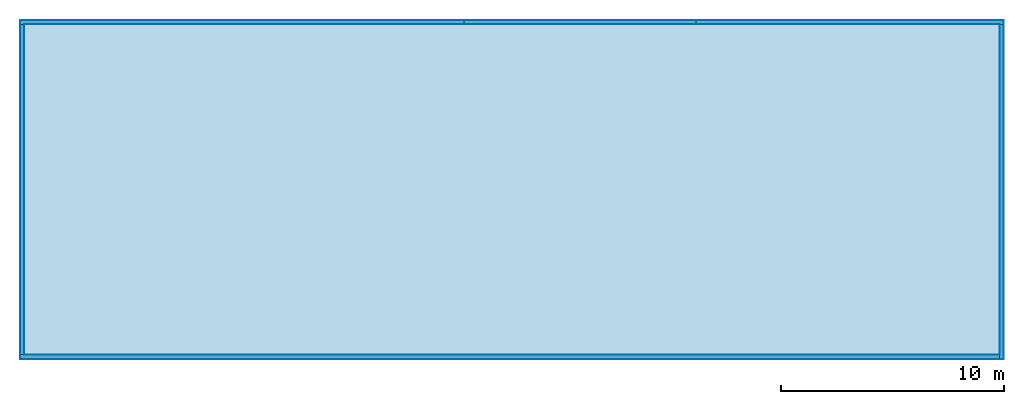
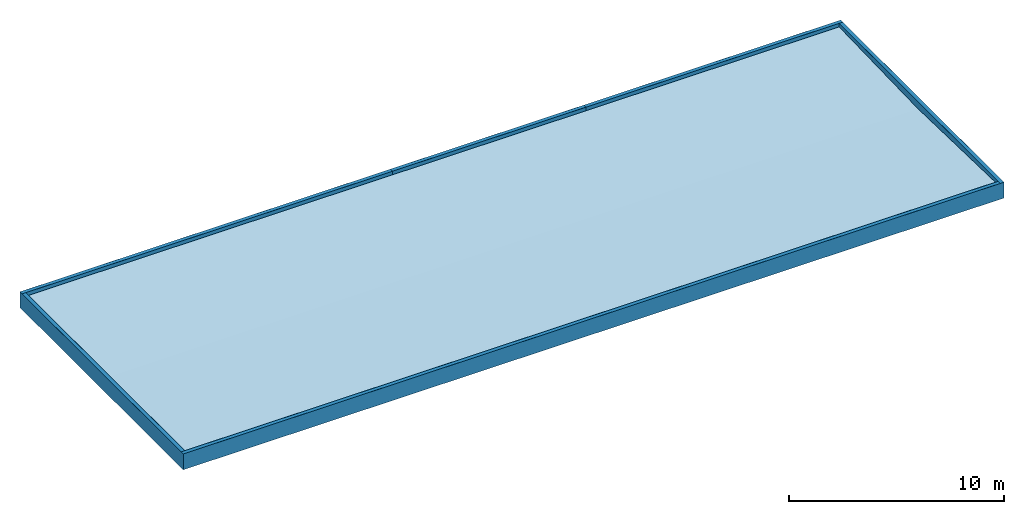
# One storey: 18 building element parts, 1 roof, 6 elements without a shape of their own.
"""IFC4 building model written with IfcOpenShell, lengths in millimetres."""

from ifc_helpers import new_model, entity, si_unit, converted_unit, direction, frame, origin, place, context, subcontext, project, spatial, indexed_curve, outline, extrude, polygons, material, constituent, constituent_set, type_object, element, aggregate, save


model = new_model("IFC4")

# Units and contexts
model_context = context("Model", 3, precision=0.01, world=origin(), true_north=direction((0.0, 1.0)))
body_context = subcontext(model_context, "Body", "Model", "MODEL_VIEW")
ifc_project = project(units=[si_unit("LENGTHUNIT", "METRE", prefix="MILLI"), si_unit("AREAUNIT", "SQUARE_METRE"), si_unit("VOLUMEUNIT", "CUBIC_METRE"), converted_unit("PLANEANGLEUNIT", "DEGREE", entity("IfcPlaneAngleMeasure", 0.017453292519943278), si_unit("PLANEANGLEUNIT", "RADIAN"), dimensions=[0, 0, 0, 0, 0, 0, 0])], contexts=[model_context])

# Site, building, storey
site_placement = place(None, origin())
site = spatial("IfcSite", under=ifc_project, at=site_placement, Name="Tomtens navn", CompositionType="ELEMENT")
building_placement = place(site_placement, origin())
building = spatial("IfcBuilding", under=site, at=building_placement, Name="Byggets navn", CompositionType="ELEMENT")
storey_placement = place(building_placement, frame((0.0, 0.0, 7000.0)))
storey = spatial("IfcBuildingStorey", under=building, at=storey_placement, Name="Level 3", CompositionType="ELEMENT", Elevation=6999.999999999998)

# Roof
ifc_material_1 = material(Name="NO_Asfaltpapp", Category="Asfalt")
ifc_constituent_1 = constituent(ifc_material_1, Name="NO_Asfaltpapp", Category="Asfalt", fraction=0.0669014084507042)
ifc_material_2 = material(Name="NO_Isolasjon - Fast", Category="Isolasjon")
ifc_constituent_2 = constituent(ifc_material_2, Name="NO_Isolasjon - Fast", Category="Isolasjon", fraction=0.17605633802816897)
ifc_constituent_3 = constituent(ifc_material_2, Name="NO_Isolasjon - Fast", Category="Isolasjon", fraction=0.4401408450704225)
ifc_material_3 = material(Name="<Unnamed>")
ifc_constituent_4 = constituent(ifc_material_3, Name="Layer", fraction=0.08802816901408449)
ifc_material_4 = material(Name="Tak - Metall", Category="Unassigned")
ifc_constituent_5 = constituent(ifc_material_4, Name="Tak - Metall", Category="Unassigned", fraction=0.22887323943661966)
ifc_constituent_set = constituent_set(constituents=[ifc_constituent_1, ifc_constituent_2, ifc_constituent_3, ifc_constituent_4, ifc_constituent_5], Name="Basic Roof:Warm Roof - TRP")
roof_type = type_object("IfcRoofType", Name="Basic Roof:Warm Roof - TRP", PredefinedType="NOTDEFINED")
roof_placement = place(storey_placement, frame((38712.85352810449, 8061.466456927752, 0.0)))
element("IfcRoof", 1, at=roof_placement, inside=storey, type_object=roof_type, material=ifc_constituent_set, Name="Basic Roof:Warm Roof - TRP", PredefinedType="NOTDEFINED", context=body_context, shape_type="Tessellation", body=[
    polygons([(5.093170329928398e-11, 14800.000000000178, 0.0), (43709.99999999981, 14800.000000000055, 0.0), (43709.99999999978, 1.6370904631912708e-11, 0.0), (0.0, 1.382431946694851e-10, 0.0), (43709.999999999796, 14800.000000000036, 700.0000000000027), (5.093170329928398e-11, 14800.000000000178, 700.0000000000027), (43709.999999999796, 3.092281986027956e-11, 700.0000000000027), (43709.99999999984, 7470.000000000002, 500.00000000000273), (0.0, 1.382431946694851e-10, 700.0000000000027), (2.1827872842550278e-11, 7470.000000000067, 500.00000000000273)], [[[1, 2, 3, 4]], [[5, 2, 1, 6]], [[7, 3, 2, 5, 8]], [[9, 4, 3, 7]], [[6, 1, 4, 9, 10]], [[9, 7, 8, 10]], [[8, 5, 6, 10]]], closed=True),
])

# Wall, building element parts
wall_type_1 = type_object("IfcWallType", Name="Basic Wall:YV02 Sandwichvegg 200", PredefinedType="STANDARD")
wall_1_placement = place(storey_placement, frame((38512.853528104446, 22961.466456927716, 0.0)))
wall_1 = element("IfcWall", 2, at=wall_1_placement, inside=storey, type_object=wall_type_1, Name="Basic Wall:YV02 Sandwichvegg 200", PredefinedType="NOTDEFINED")
ifc_material_5 = material(Name="Metall - Malt overflate - Mørk Grå, Matt", Category="Unassigned")
building_element_part_1_placement = place(wall_1_placement, origin())
building_element_part_1 = element("IfcBuildingElementPart", 3, at=building_element_part_1_placement, material=ifc_material_5, Name="Metall - Malt overflate - Mørk Grå, Matt", context=body_context, shape_type="SweptSolid", body=[
    extrude(outline(indexed_curve([(-0.9999999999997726, -9954.999999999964), (0.9999999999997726, -9954.999999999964), (0.9999999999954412, 9954.999999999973), (-1.000000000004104, 9954.999999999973), (-0.9999999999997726, -9954.999999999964)], self_intersect=False)), frame((9955.0, 99.0, 0.0), z_axis=(0.0, 0.0, 1.0), x_axis=(0.0, -1.0, 0.0)), (0.0, 0.0, 1.0), 900.0000000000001),
])
ifc_material_6 = material(Name="Rustfritt Stål", Category="Metal")
building_element_part_2_placement = place(wall_1_placement, origin())
building_element_part_2 = element("IfcBuildingElementPart", 4, at=building_element_part_2_placement, material=ifc_material_6, Name="Rustfritt Stål", context=body_context, shape_type="SweptSolid", body=[
    extrude(outline(indexed_curve([(-0.9999999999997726, -9855.999999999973), (1.000000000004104, -9855.999999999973), (0.9999999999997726, 9855.999999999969), (-1.000000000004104, 9855.999999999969), (-0.9999999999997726, -9855.999999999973)], self_intersect=False)), frame((10054.0, -99.0, 0.0), z_axis=(0.0, 0.0, 1.0), x_axis=(0.0, -1.0, 0.0)), (0.0, 0.0, 1.0), 900.0000000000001),
])
building_element_part_3_placement = place(wall_1_placement, origin())
building_element_part_3 = element("IfcBuildingElementPart", 5, at=building_element_part_3_placement, material=ifc_material_2, Name="NO_Isolasjon - Fast", context=body_context, shape_type="SweptSolid", body=[
    extrude(outline(indexed_curve([(-97.9999999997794, -9953.999999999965), (98.00000000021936, -9953.999999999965), (97.99999999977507, 9953.999999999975), (-98.00000000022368, 9953.999999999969), (-97.9999999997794, -9953.999999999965)], self_intersect=False)), frame((9956.0, 0.0, 0.0), z_axis=(0.0, 0.0, 1.0), x_axis=(0.0, -1.0, 0.0)), (0.0, 0.0, 1.0), 900.0000000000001),
])
aggregate(wall_1, [building_element_part_1, building_element_part_2, building_element_part_3])

wall_2_placement = place(storey_placement, frame((82522.85352810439, 22861.466456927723, 0.0), z_axis=(0.0, 0.0, 1.0), x_axis=(0.0, -1.0, 0.0)))
wall_2 = element("IfcWall", 6, at=wall_2_placement, inside=storey, type_object=wall_type_1, Name="Basic Wall:YV02 Sandwichvegg 200", PredefinedType="NOTDEFINED")
building_element_part_4_placement = place(wall_2_placement, origin())
building_element_part_4 = element("IfcBuildingElementPart", 7, at=building_element_part_4_placement, material=ifc_material_5, Name="Metall - Malt overflate - Mørk Grå, Matt", context=body_context, shape_type="SweptSolid", body=[
    extrude(outline(indexed_curve([(-7598.999999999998, -1.0000000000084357), (7598.999999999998, -1.0000000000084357), (7598.999999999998, 0.9999999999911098), (-7598.999999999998, 0.9999999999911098), (-7598.999999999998, -1.0000000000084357)], self_intersect=False)), frame((7401.0, 99.0, 0.0)), (0.0, 0.0, 1.0), 900.0000000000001),
])
building_element_part_5_placement = place(wall_2_placement, origin())
building_element_part_5 = element("IfcBuildingElementPart", 8, at=building_element_part_5_placement, material=ifc_material_6, Name="Rustfritt Stål", context=body_context, shape_type="SweptSolid", body=[
    extrude(outline(indexed_curve([(-7400.999999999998, -1.0000000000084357), (7401.0, -1.0000000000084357), (7401.0, 1.0000000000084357), (-7400.999999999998, 1.0000000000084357), (-7400.999999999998, -1.0000000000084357)], self_intersect=False)), frame((7401.0, -99.0, 0.0)), (0.0, 0.0, 1.0), 900.0000000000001),
])
building_element_part_6_placement = place(wall_2_placement, origin())
building_element_part_6 = element("IfcBuildingElementPart", 9, at=building_element_part_6_placement, material=ifc_material_2, Name="NO_Isolasjon - Fast", context=body_context, shape_type="SweptSolid", body=[
    extrude(outline(indexed_curve([(-7499.999999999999, -97.99999999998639), (7499.999999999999, -97.99999999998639), (7499.999999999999, 98.00000000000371), (-7499.999999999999, 98.00000000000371), (-7499.999999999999, -97.99999999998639)], self_intersect=False)), frame((7498.0, 0.0, 0.0)), (0.0, 0.0, 1.0), 900.0000000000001),
])
aggregate(wall_2, [building_element_part_4, building_element_part_5, building_element_part_6])

wall_3_placement = place(storey_placement, frame((82422.85352810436, 7961.466456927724, 0.0), z_axis=(0.0, 0.0, 1.0), x_axis=(-1.0, 0.0, 0.0)))
wall_3 = element("IfcWall", 10, at=wall_3_placement, inside=storey, type_object=wall_type_1, Name="Basic Wall:YV02 Sandwichvegg 200", PredefinedType="NOTDEFINED")
building_element_part_7_placement = place(wall_3_placement, origin())
building_element_part_7 = element("IfcBuildingElementPart", 11, at=building_element_part_7_placement, material=ifc_material_5, Name="Metall - Malt overflate - Mørk Grå, Matt", context=body_context, shape_type="SweptSolid", body=[
    extrude(outline(indexed_curve([(-0.9999999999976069, -22053.999999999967), (1.0000000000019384, -22053.999999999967), (0.9999999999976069, 22053.999999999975), (-1.0000000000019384, 22053.999999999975), (-0.9999999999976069, -22053.999999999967)], self_intersect=False)), frame((21856.0, 99.0, 0.0), z_axis=(0.0, 0.0, 1.0), x_axis=(0.0, 1.0, 0.0)), (0.0, 0.0, 1.0), 900.0000000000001),
])
building_element_part_8_placement = place(wall_3_placement, origin())
building_element_part_8 = element("IfcBuildingElementPart", 12, at=building_element_part_8_placement, material=ifc_material_6, Name="Rustfritt Stål", context=body_context, shape_type="SweptSolid", body=[
    extrude(outline(indexed_curve([(-0.9999999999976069, -21855.99999999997), (1.0000000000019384, -21855.99999999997), (0.9999999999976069, 21855.99999999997), (-1.0000000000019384, 21855.99999999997), (-0.9999999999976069, -21855.99999999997)], self_intersect=False)), frame((21856.0, -99.0, 0.0), z_axis=(0.0, 0.0, 1.0), x_axis=(0.0, 1.0, 0.0)), (0.0, 0.0, 1.0), 900.0000000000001),
])
building_element_part_9_placement = place(wall_3_placement, origin())
building_element_part_9 = element("IfcBuildingElementPart", 13, at=building_element_part_9_placement, material=ifc_material_2, Name="NO_Isolasjon - Fast", context=body_context, shape_type="SweptSolid", body=[
    extrude(outline(indexed_curve([(-97.99999999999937, -21954.999999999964), (98.00000000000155, -21954.999999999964), (97.99999999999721, 21954.99999999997), (-98.00000000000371, 21954.99999999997), (-97.99999999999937, -21954.999999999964)], self_intersect=False)), frame((21953.0, 0.0, 0.0), z_axis=(0.0, 0.0, 1.0), x_axis=(0.0, 1.0, 0.0)), (0.0, 0.0, 1.0), 900.0000000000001),
])
aggregate(wall_3, [building_element_part_7, building_element_part_8, building_element_part_9])

wall_4_placement = place(storey_placement, frame((38612.853528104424, 8061.466456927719, 0.0), z_axis=(0.0, 0.0, 1.0), x_axis=(0.0, 1.0, 0.0)))
wall_4 = element("IfcWall", 14, at=wall_4_placement, inside=storey, type_object=wall_type_1, Name="Basic Wall:YV02 Sandwichvegg 200", PredefinedType="NOTDEFINED")
building_element_part_10_placement = place(wall_4_placement, origin())
building_element_part_10 = element("IfcBuildingElementPart", 15, at=building_element_part_10_placement, material=ifc_material_5, Name="Metall - Malt overflate - Mørk Grå, Matt", context=body_context, shape_type="SweptSolid", body=[
    extrude(outline(indexed_curve([(-7597.999999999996, -1.000000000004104), (7597.999999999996, -0.9999999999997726), (7597.999999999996, 0.9999999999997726), (-7597.999999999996, 0.9999999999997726), (-7597.999999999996, -1.000000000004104)], self_intersect=False)), frame((7400.0, 99.0, 0.0), z_axis=(0.0, 0.0, 1.0), x_axis=(-1.0, 0.0, 0.0)), (0.0, 0.0, 1.0), 900.0000000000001),
])
building_element_part_11_placement = place(wall_4_placement, origin())
building_element_part_11 = element("IfcBuildingElementPart", 16, at=building_element_part_11_placement, material=ifc_material_6, Name="Rustfritt Stål", context=body_context, shape_type="SweptSolid", body=[
    extrude(outline(indexed_curve([(-7399.999999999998, -1.000000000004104), (7399.999999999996, -1.000000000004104), (7399.999999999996, 0.9999999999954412), (-7399.999999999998, 0.9999999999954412), (-7399.999999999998, -1.000000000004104)], self_intersect=False)), frame((7400.0, -99.0, 0.0), z_axis=(0.0, 0.0, 1.0), x_axis=(-1.0, 0.0, 0.0)), (0.0, 0.0, 1.0), 900.0000000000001),
])
building_element_part_12_placement = place(wall_4_placement, origin())
building_element_part_12 = element("IfcBuildingElementPart", 17, at=building_element_part_12_placement, material=ifc_material_2, Name="NO_Isolasjon - Fast", context=body_context, shape_type="SweptSolid", body=[
    extrude(outline(indexed_curve([(-7401.999999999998, -97.99999999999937), (7401.999999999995, -97.99999999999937), (7401.999999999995, 97.99999999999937), (-7401.999999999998, 97.99999999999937), (-7401.999999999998, -97.99999999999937)], self_intersect=False)), frame((7400.0, 0.0, 0.0), z_axis=(0.0, 0.0, 1.0), x_axis=(-1.0, 0.0, 0.0)), (0.0, 0.0, 1.0), 900.0000000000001),
])
aggregate(wall_4, [building_element_part_10, building_element_part_11, building_element_part_12])

wall_5_placement = place(storey_placement, frame((68822.85352810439, 22961.466456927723, 0.0)))
wall_5 = element("IfcWall", 18, at=wall_5_placement, inside=storey, type_object=wall_type_1, Name="Basic Wall:YV02 Sandwichvegg 200", PredefinedType="NOTDEFINED")
building_element_part_13_placement = place(wall_5_placement, origin())
building_element_part_13 = element("IfcBuildingElementPart", 19, at=building_element_part_13_placement, material=ifc_material_5, Name="Metall - Malt overflate - Mørk Grå, Matt", context=body_context, shape_type="SweptSolid", body=[
    extrude(outline(indexed_curve([(-0.9999999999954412, -6899.999999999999), (1.000000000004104, -6899.999999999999), (0.9999999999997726, 6899.999999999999), (-0.9999999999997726, 6899.999999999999), (-0.9999999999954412, -6899.999999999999)], self_intersect=False)), frame((6900.0, 99.0, 0.0), z_axis=(0.0, 0.0, 1.0), x_axis=(0.0, -1.0, 0.0)), (0.0, 0.0, 1.0), 900.0000000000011),
])
building_element_part_14_placement = place(wall_5_placement, origin())
building_element_part_14 = element("IfcBuildingElementPart", 20, at=building_element_part_14_placement, material=ifc_material_6, Name="Rustfritt Stål", context=body_context, shape_type="SweptSolid", body=[
    extrude(outline(indexed_curve([(-0.9999999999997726, -6800.999999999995), (1.000000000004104, -6800.999999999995), (0.9999999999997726, 6800.999999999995), (-1.000000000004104, 6800.999999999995), (-0.9999999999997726, -6800.999999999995)], self_intersect=False)), frame((6801.0, -99.0, 0.0), z_axis=(0.0, 0.0, 1.0), x_axis=(0.0, -1.0, 0.0)), (0.0, 0.0, 1.0), 900.0000000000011),
])
building_element_part_15_placement = place(wall_5_placement, origin())
building_element_part_15 = element("IfcBuildingElementPart", 21, at=building_element_part_15_placement, material=ifc_material_2, Name="NO_Isolasjon - Fast", context=body_context, shape_type="SweptSolid", body=[
    extrude(outline(indexed_curve([(-97.99999999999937, -6899.0), (97.99999999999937, -6899.0), (97.99999999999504, 6899.0), (-98.00000000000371, 6899.0), (-97.99999999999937, -6899.0)], self_intersect=False)), frame((6899.0, 0.0, 0.0), z_axis=(0.0, 0.0, 1.0), x_axis=(0.0, -1.0, 0.0)), (0.0, 0.0, 1.0), 900.0000000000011),
])
aggregate(wall_5, [building_element_part_13, building_element_part_14, building_element_part_15])

wall_type_2 = type_object("IfcWallType", Name="Basic Wall:YV02 Sandwichvegg 200 rød", PredefinedType="STANDARD")
wall_6_placement = place(storey_placement, frame((58422.85352810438, 22961.466456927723, 0.0)))
wall_6 = element("IfcWall", 22, at=wall_6_placement, inside=storey, type_object=wall_type_2, Name="Basic Wall:YV02 Sandwichvegg 200 rød", PredefinedType="NOTDEFINED")
ifc_material_7 = material(Name="NO_Maling - rød", Category="Overflatebehandling")
building_element_part_16_placement = place(wall_6_placement, origin())
building_element_part_16 = element("IfcBuildingElementPart", 23, at=building_element_part_16_placement, material=ifc_material_7, Name="NO_Maling - rød", context=body_context, shape_type="SweptSolid", body=[
    extrude(outline(indexed_curve([(-0.9999999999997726, -5200.000000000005), (0.9999999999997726, -5200.000000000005), (0.9999999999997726, 5199.999999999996), (-0.9999999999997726, 5199.999999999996), (-0.9999999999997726, -5200.000000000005)], self_intersect=False)), frame((5200.0, 99.0, 0.0), z_axis=(0.0, 0.0, 1.0), x_axis=(0.0, -1.0, 0.0)), (0.0, 0.0, 1.0), 900.0000000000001),
])
building_element_part_17_placement = place(wall_6_placement, origin())
building_element_part_17 = element("IfcBuildingElementPart", 24, at=building_element_part_17_placement, material=ifc_material_6, Name="Rustfritt Stål", context=body_context, shape_type="SweptSolid", body=[
    extrude(outline(indexed_curve([(-1.000000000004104, -5200.000000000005), (0.9999999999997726, -5200.000000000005), (0.9999999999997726, 5199.999999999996), (-1.000000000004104, 5199.999999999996), (-1.000000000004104, -5200.000000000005)], self_intersect=False)), frame((5200.0, -99.0, 0.0), z_axis=(0.0, 0.0, 1.0), x_axis=(0.0, -1.0, 0.0)), (0.0, 0.0, 1.0), 900.0000000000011),
])
building_element_part_18_placement = place(wall_6_placement, origin())
building_element_part_18 = element("IfcBuildingElementPart", 25, at=building_element_part_18_placement, material=ifc_material_2, Name="NO_Isolasjon - Fast", context=body_context, shape_type="SweptSolid", body=[
    extrude(outline(indexed_curve([(-97.99999999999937, -5200.000000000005), (97.99999999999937, -5200.000000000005), (97.99999999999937, 5199.999999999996), (-97.99999999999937, 5200.000000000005), (-97.99999999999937, -5200.000000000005)], self_intersect=False)), frame((5200.0, 0.0, 0.0), z_axis=(0.0, 0.0, 1.0), x_axis=(0.0, -1.0, 0.0)), (0.0, 0.0, 1.0), 900.0000000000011),
])
aggregate(wall_6, [building_element_part_16, building_element_part_17, building_element_part_18])

save(model, "model.ifc")
